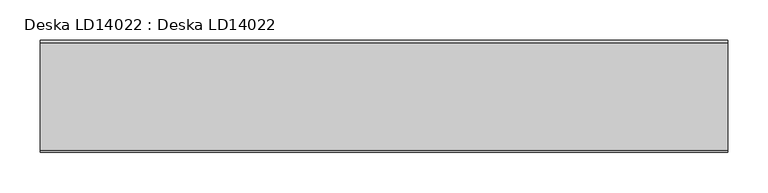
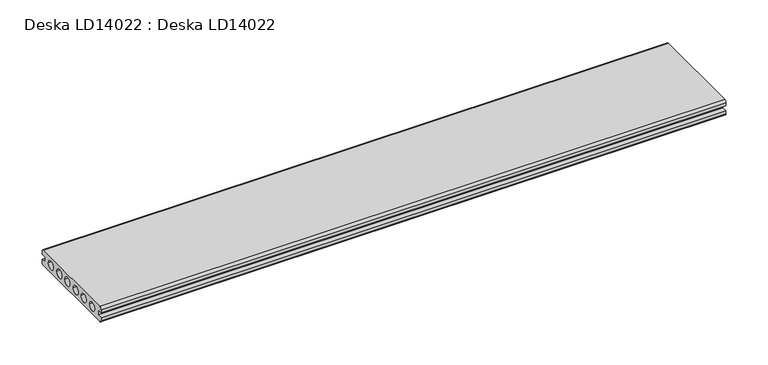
"""IFC4 building model written with IfcOpenShell, lengths in millimetres: proxy geometry, Deska LD14022 : Deska LD14022."""

from ifc_helpers import new_model, si_unit, point, frame, frame_2d, origin, place, context, project, spatial, polyline, circle_curve, trimmed, segment, composite_curve, outline, extrude, source, transform, mapped, element, save


def deska_ld14022_deska_ld14022_10748b43(model_context):
    return source(origin(), model_context, "Body", "SweptSolid", [
        extrude(outline(composite_curve([segment(polyline([(-7.0, 14.5), (-7.0, 7.5), (0.0, 7.5), (0.0, 3.0)]), True, "CONTINUOUS"), segment(trimmed(circle_curve(frame_2d((-3.0, 3.0)), 3.0), [point((0.0, 3.0))], [point((-3.0, 0.0))], False, "CARTESIAN"), True, "CONTINUOUS"), segment(polyline([(-3.0, 0.0), (-137.0, 0.0)]), True, "CONTINUOUS"), segment(trimmed(circle_curve(frame_2d((-137.0, 3.0)), 3.0), [point((-137.0, 0.0))], [point((-140.0, 3.0))], False, "CARTESIAN"), True, "CONTINUOUS"), segment(polyline([(-140.0, 3.0), (-140.0, 7.5), (-133.0, 7.5), (-133.0, 14.5), (-140.0, 14.5), (-140.0, 19.0)]), True, "CONTINUOUS"), segment(trimmed(circle_curve(frame_2d((-137.0, 19.0)), 3.0), [point((-140.0, 19.0))], [point((-137.0, 22.0))], False, "CARTESIAN"), True, "CONTINUOUS"), segment(polyline([(-137.0, 22.0), (-3.0, 22.0)]), True, "CONTINUOUS"), segment(trimmed(circle_curve(frame_2d((-3.0, 19.0)), 3.0), [point((-3.0, 22.0))], [point((0.0, 19.0))], False, "CARTESIAN"), True, "CONTINUOUS"), segment(polyline([(0.0, 19.0), (0.0, 14.5), (-7.0, 14.5)]), True, "CONTINUOUS")], self_intersect=False), holes=[composite_curve([segment(trimmed(circle_curve(frame_2d((-21.0, 11.0)), 6.0), [point((-15.0, 11.0))], [point((-27.0, 11.0))], True, "CARTESIAN"), True, "CONTINUOUS"), segment(trimmed(circle_curve(frame_2d((-21.0, 11.0)), 6.0), [point((-27.0, 11.0))], [point((-15.0, 11.0))], True, "CARTESIAN"), True, "CONTINUOUS")], self_intersect=False), composite_curve([segment(trimmed(circle_curve(frame_2d((-41.0, 11.0)), 6.0), [point((-35.0, 11.0))], [point((-47.0, 11.0))], True, "CARTESIAN"), True, "CONTINUOUS"), segment(trimmed(circle_curve(frame_2d((-41.0, 11.0)), 6.0), [point((-47.0, 11.0))], [point((-35.0, 11.0))], True, "CARTESIAN"), True, "CONTINUOUS")], self_intersect=False), composite_curve([segment(trimmed(circle_curve(frame_2d((-60.0, 11.0)), 6.0), [point((-54.0, 11.0))], [point((-66.0, 11.0))], True, "CARTESIAN"), True, "CONTINUOUS"), segment(trimmed(circle_curve(frame_2d((-60.0, 11.0)), 6.0), [point((-66.0, 11.0))], [point((-54.0, 11.0))], True, "CARTESIAN"), True, "CONTINUOUS")], self_intersect=False), composite_curve([segment(trimmed(circle_curve(frame_2d((-80.0, 11.0)), 6.0), [point((-74.0, 11.0))], [point((-86.0, 11.0))], True, "CARTESIAN"), True, "CONTINUOUS"), segment(trimmed(circle_curve(frame_2d((-80.0, 11.0)), 6.0), [point((-86.0, 11.0))], [point((-74.0, 11.0))], True, "CARTESIAN"), True, "CONTINUOUS")], self_intersect=False), composite_curve([segment(trimmed(circle_curve(frame_2d((-99.0, 11.0)), 6.0), [point((-93.0, 11.0))], [point((-105.0, 11.0))], True, "CARTESIAN"), True, "CONTINUOUS"), segment(trimmed(circle_curve(frame_2d((-99.0, 11.0)), 6.0), [point((-105.0, 11.0))], [point((-93.0, 11.0))], True, "CARTESIAN"), True, "CONTINUOUS")], self_intersect=False), composite_curve([segment(trimmed(circle_curve(frame_2d((-119.0, 11.0)), 6.0), [point((-113.0, 11.0))], [point((-125.0, 11.0))], True, "CARTESIAN"), True, "CONTINUOUS"), segment(trimmed(circle_curve(frame_2d((-119.0, 11.0)), 6.0), [point((-125.0, 11.0))], [point((-113.0, 11.0))], True, "CARTESIAN"), True, "CONTINUOUS")], self_intersect=False)]), frame((0.0, 0.0, 0.0), z_axis=(1.0, 0.0, 0.0), x_axis=(0.0, 1.0, 0.0)), (0.0, 0.0, 1.0), 857.3106056),
    ])


if __name__ == "__main__":
    model = new_model("IFC4")
    model_context = context("Model", 3, world=origin())
    ifc_project = project(units=[si_unit("LENGTHUNIT", "METRE", prefix="MILLI")], contexts=[model_context])
    site = spatial("IfcSite", under=ifc_project)
    building = spatial("IfcBuilding", under=site)
    placement = place(None, origin())
    deska_ld14022_deska_ld14022_shape = deska_ld14022_deska_ld14022_10748b43(model_context)
    element("IfcBuildingElementProxy", 1, Name="Deska LD14022 : Deska LD14022", ObjectType="Deska LD14022 : Deska LD14022", at=placement, inside=building, context=model_context, shape_type="MappedRepresentation", body=[
        mapped(deska_ld14022_deska_ld14022_shape, transform((0.0, 0.0, 0.0), x_axis=(1.0, 0.0, 0.0), y_axis=(0.0, 1.0, 0.0), z_axis=(0.0, 0.0, 1.0))),
    ])
    save(model, "model.ifc")
